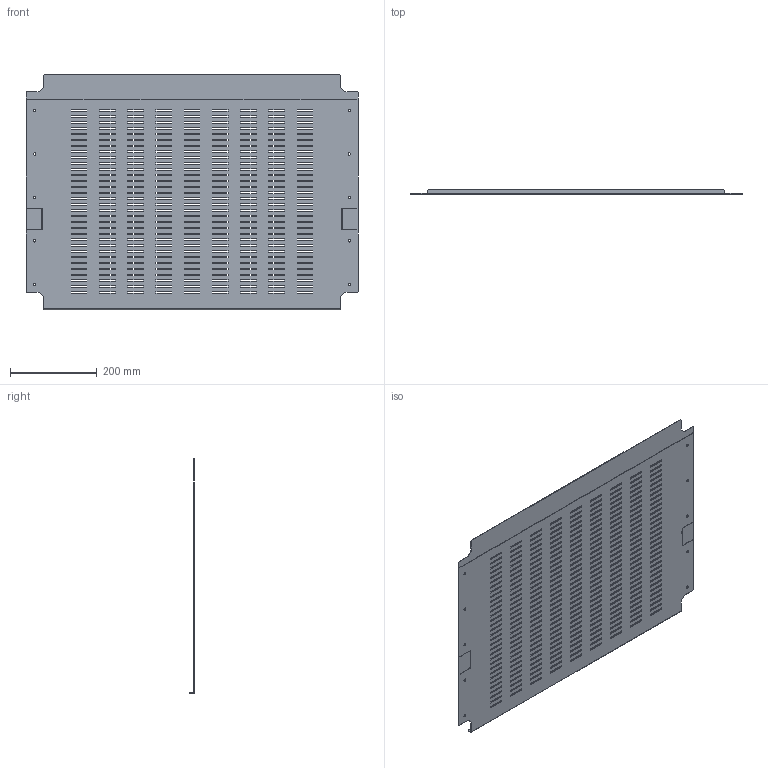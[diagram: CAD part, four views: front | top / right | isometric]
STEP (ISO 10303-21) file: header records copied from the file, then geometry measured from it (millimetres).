
FILE_DESCRIPTION(('CAx-IF Rec.Pracs.---Model Styling and Organization---1.2---2011-12-15','CAx-IF Rec.Pracs.---Geometric and Assembly Validation Properties---4.1---2014-06-16','CAx-IF Rec.Pracs.---PMI Polyline Presentation---2.0---2013-05-24'),'2;1');
FILE_NAME('R5SBB86.stp','2021-05-06T02:26:01+03:00',(''),(''),'STEP Interface 4.4 by CT CoreTechnologie','3D_Evolution4.4 by CT CoreTechnologie','');
FILE_SCHEMA(('AUTOMOTIVE_DESIGN { 1 0 10303 214 1 1 1 1 }'));
Length unit declared in the file: millimetre
Products named in the file (2): R5SBB86; RB.0570.00.00.0_-02(-800x600)
Assembly tree (1 placements, depth 2):
  R5SBB86
    RB.0570.00.00.0_-02(-800x600)
Bounding box: 765 x 11.5 x 542 mm (x, y, z)
Surface area: 796977.8 mm2 (no closed solid volume)
Topology: 0 solids, 1 shells, 1305 faces, 3903 edges, 2600 vertices
Faces by surface type: plane 1283, cylinder 22
Entity records: 44346 total; most frequent: CARTESIAN_POINT 7810, ORIENTED_EDGE 7806, DIRECTION 6561, EDGE_CURVE 3903, VECTOR 3859, LINE 3859, VERTEX_POINT 2600, EDGE_LOOP 1935
